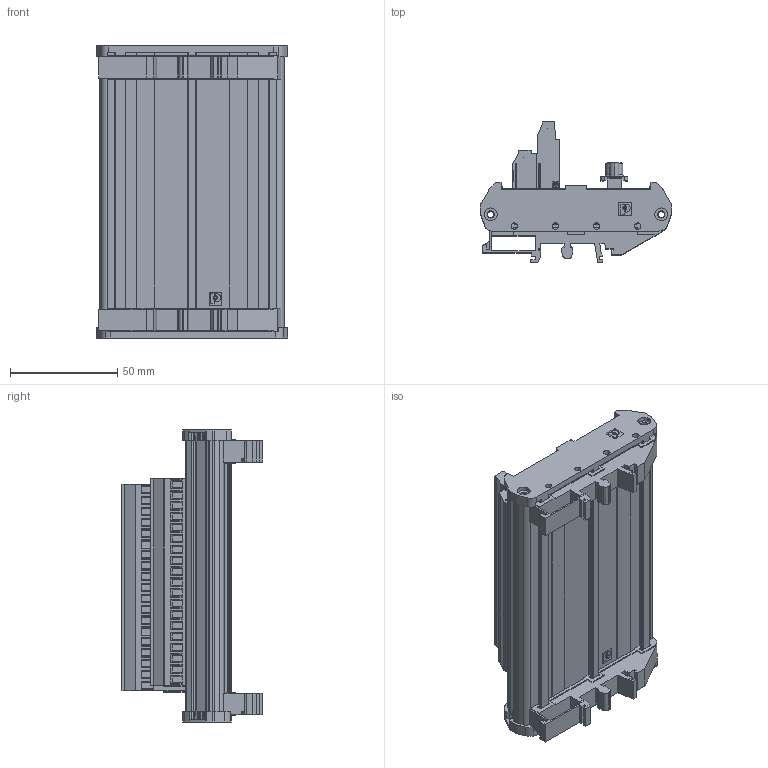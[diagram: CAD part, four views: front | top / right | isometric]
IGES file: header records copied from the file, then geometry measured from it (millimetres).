
Start section:  PTC IGES file: cu_cb-37f-hvd.igs
Global section: file name: cu_cb-37f-hvd.igs; native system: Pro/ENGINEER by Parametric Technology Corporation; preprocessor: 2011490; author: dkendric; organization: Unknown; date: 20140321.112926; units: inch
Bounding box: 89.6 x 65.99 x 136.48 mm (x, y, z)
Surface area: 67822.1 mm2 (no closed solid volume)
Topology: 0 solids, 0 shells, 2280 faces, 12248 edges, 12236 vertices
Faces by surface type: bspline 1399, revolution 881
